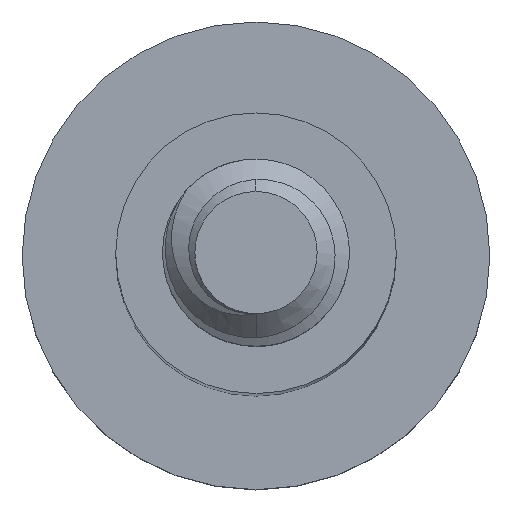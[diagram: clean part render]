
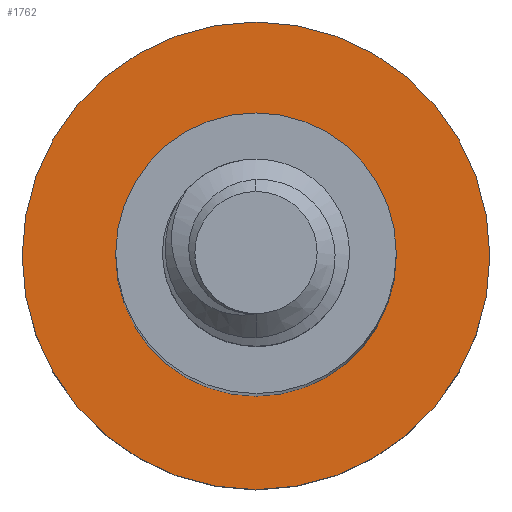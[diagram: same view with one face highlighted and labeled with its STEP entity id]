
A CAD part, top view. The second image highlights one B-rep face of the part: STEP entity #1762.
In plain terms, the highlighted planar face has unit normal (0, 0, 1).
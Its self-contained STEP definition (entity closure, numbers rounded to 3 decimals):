
#90 = DIRECTION ( 'NONE',  ( -1., 0., 0. ) ) ;
#135 = ORIENTED_EDGE ( 'NONE', *, *, #1047, .T. ) ;
#228 = DIRECTION ( 'NONE',  ( -1., 0., 0. ) ) ;
#270 = FACE_OUTER_BOUND ( 'NONE', #1793, .T. ) ;
#380 = ORIENTED_EDGE ( 'NONE', *, *, #2001, .F. ) ;
#387 = ORIENTED_EDGE ( 'NONE', *, *, #1185, .T. ) ;
#583 = AXIS2_PLACEMENT_3D ( 'NONE', #598, #2336, #228 ) ;
#598 = CARTESIAN_POINT ( 'NONE',  ( 0., 0., -16. ) ) ;
#626 = EDGE_LOOP ( 'NONE', ( #387, #135 ) ) ;
#636 = VERTEX_POINT ( 'NONE', #2028 ) ;
#856 = CIRCLE ( 'NONE', #2025, 1.5 ) ;
#934 = EDGE_CURVE ( 'NONE', #636, #1354, #2274, .T. ) ;
#935 = CIRCLE ( 'NONE', #2069, 1.5 ) ;
#1026 = AXIS2_PLACEMENT_3D ( 'NONE', #1693, #1928, #1884 ) ;
#1036 = PLANE ( 'NONE',  #583 ) ;
#1047 = EDGE_CURVE ( 'NONE', #2199, #1301, #856, .T. ) ;
#1185 = EDGE_CURVE ( 'NONE', #1301, #2199, #935, .T. ) ;
#1193 = CARTESIAN_POINT ( 'NONE',  ( -1.5, 0., -16. ) ) ;
#1301 = VERTEX_POINT ( 'NONE', #1193 ) ;
#1334 = CARTESIAN_POINT ( 'NONE',  ( 0., 0., -16. ) ) ;
#1354 = VERTEX_POINT ( 'NONE', #1581 ) ;
#1581 = CARTESIAN_POINT ( 'NONE',  ( 2.5, 0., -16. ) ) ;
#1600 = ORIENTED_EDGE ( 'NONE', *, *, #934, .F. ) ;
#1650 = DIRECTION ( 'NONE',  ( 0., 0., -1. ) ) ;
#1693 = CARTESIAN_POINT ( 'NONE',  ( 0., 0., -16. ) ) ;
#1707 = DIRECTION ( 'NONE',  ( 0., 0., -1. ) ) ;
#1739 = AXIS2_PLACEMENT_3D ( 'NONE', #2239, #1650, #90 ) ;
#1742 = CIRCLE ( 'NONE', #1026, 2.5 ) ;
#1762 = ADVANCED_FACE ( 'NONE', ( #1991, #270 ), #1036, .F. ) ;
#1793 = EDGE_LOOP ( 'NONE', ( #380, #1600 ) ) ;
#1870 = CARTESIAN_POINT ( 'NONE',  ( 1.5, 0., -16. ) ) ;
#1873 = DIRECTION ( 'NONE',  ( -1., 0., 0. ) ) ;
#1884 = DIRECTION ( 'NONE',  ( -1., 0., 0. ) ) ;
#1928 = DIRECTION ( 'NONE',  ( 0., 0., -1. ) ) ;
#1991 = FACE_BOUND ( 'NONE', #626, .T. ) ;
#2001 = EDGE_CURVE ( 'NONE', #1354, #636, #1742, .T. ) ;
#2017 = DIRECTION ( 'NONE',  ( 0., 0., -1. ) ) ;
#2025 = AXIS2_PLACEMENT_3D ( 'NONE', #2263, #2017, #2408 ) ;
#2028 = CARTESIAN_POINT ( 'NONE',  ( -2.5, 0., -16. ) ) ;
#2069 = AXIS2_PLACEMENT_3D ( 'NONE', #1334, #1707, #1873 ) ;
#2199 = VERTEX_POINT ( 'NONE', #1870 ) ;
#2239 = CARTESIAN_POINT ( 'NONE',  ( 0., 0., -16. ) ) ;
#2263 = CARTESIAN_POINT ( 'NONE',  ( 0., 0., -16. ) ) ;
#2274 = CIRCLE ( 'NONE', #1739, 2.5 ) ;
#2336 = DIRECTION ( 'NONE',  ( 0., 0., -1. ) ) ;
#2408 = DIRECTION ( 'NONE',  ( -1., 0., 0. ) ) ;
